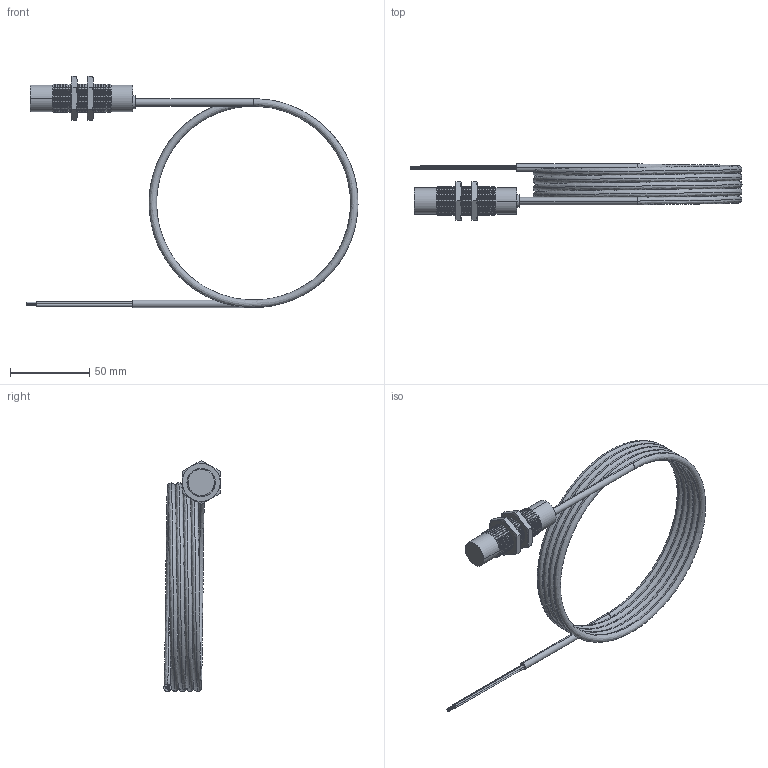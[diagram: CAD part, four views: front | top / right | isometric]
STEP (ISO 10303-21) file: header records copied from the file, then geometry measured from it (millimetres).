
FILE_DESCRIPTION (( 'STEP AP203' ), '1' );
FILE_NAME ('90-XXXX-028.STEP', '2015-08-31T03:35:54', ( 'Sam' ), ( 'Spade' ), 'SwSTEP 2.0', 'SolidWorks 2002296', '' );
FILE_SCHEMA (( 'CONFIG_CONTROL_DESIGN' ));
Length unit declared in the file: inch
Products named in the file (15): 90-XXXX-028; Imported156; Imported155; Imported154; Imported153; Imported152; Imported160; Imported159; Imported158; Imported157; Imported162; Imported161; Imported165; Imported164; Imported163
Assembly tree (14 placements, depth 2):
  90-XXXX-028
    Imported161
    Imported159
    Imported158
    Imported155
    Imported157
    Imported165
    Imported156
    Imported153
    Imported163
    Imported154
    Imported164
    Imported160
    Imported152
    Imported162
Bounding box: 209.36 x 35.6 x 145.73 mm (x, y, z)
Volume: 52546.7 mm3; surface area: 38639.1 mm2
Topology: 14 solids, 14 shells, 373 faces, 744 edges, 406 vertices
Faces by surface type: cone 212, cylinder 104, plane 47, bspline 10
Entity records: 12803 total; most frequent: CARTESIAN_POINT 3416, DIRECTION 1812, ORIENTED_EDGE 1488, AXIS2_PLACEMENT_3D 754, EDGE_CURVE 744, VERTEX_POINT 406, EDGE_LOOP 384, CIRCLE 374
